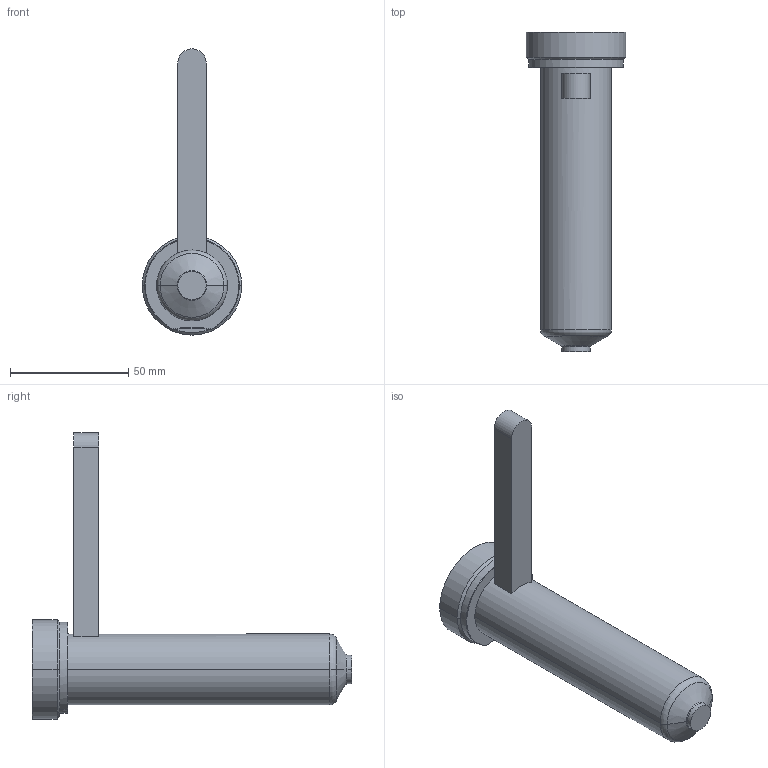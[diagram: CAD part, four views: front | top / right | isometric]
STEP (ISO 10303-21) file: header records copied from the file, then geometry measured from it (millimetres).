
FILE_DESCRIPTION((''),'2;1');
FILE_NAME('EO08_PG-FB_STD_120_COT','2024-02-19T11:30:04',('sundharh'),(''),'CREO PARAMETRIC BY PTC INC, 2023154','CREO PARAMETRIC BY PTC INC, 2023154','');
FILE_SCHEMA(('CONFIG_CONTROL_DESIGN'));
Length unit declared in the file: millimetre
Products named in the file (1): EO08_PG-FB_STD_120_COT
Bounding box: 42 x 135 x 121 mm (x, y, z)
Volume: 112456.4 mm3; surface area: 19160.2 mm2
Topology: 1 solids, 1 shells, 31 faces, 67 edges, 40 vertices
Faces by surface type: cylinder 11, plane 9, torus 7, cone 4
Entity records: 951 total; most frequent: CARTESIAN_POINT 218, DIRECTION 159, ORIENTED_EDGE 134, AXIS2_PLACEMENT_3D 67, EDGE_CURVE 67, VERTEX_POINT 40, CIRCLE 36, EDGE_LOOP 33
